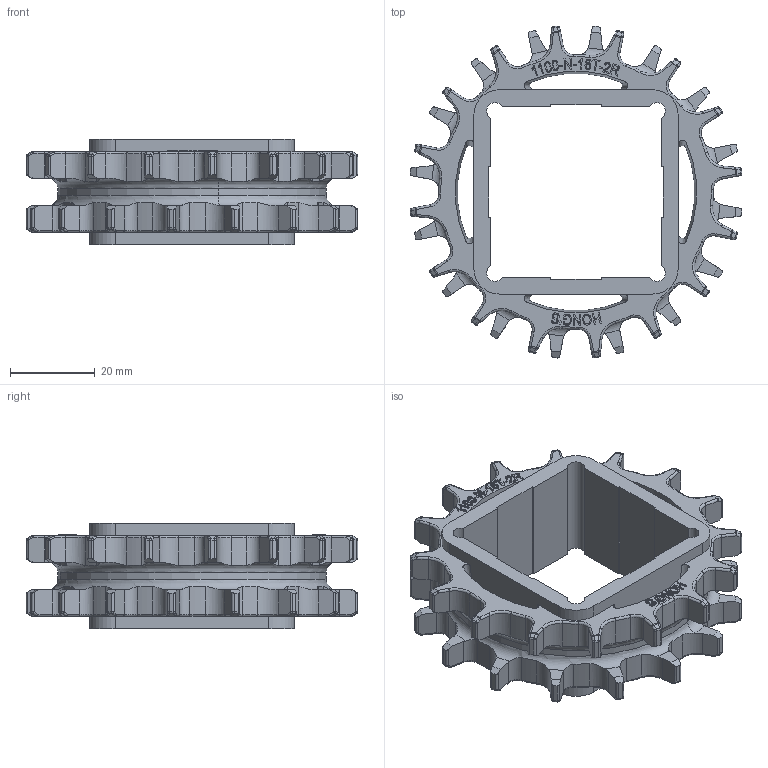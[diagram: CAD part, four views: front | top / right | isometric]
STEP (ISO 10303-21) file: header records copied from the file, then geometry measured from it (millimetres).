
FILE_DESCRIPTION(/* description */ (''),/* implementation_level */ '2;1');
FILE_NAME(/* name */ 'HS-1100-N-16T-2R-S40.stp',/* time_stamp */ '2025-05-26T17:27:47+08:00',/* author */ (''),/* organization */ (''),/* preprocessor_version */ 'ST-DEVELOPER v15',/* originating_system */ 'SIEMENS PLM Software NX 8.5',/* authorisation */ '');
FILE_SCHEMA (('AP203_CONFIGURATION_CONTROLLED_3D_DESIGN_OF_MECHANICAL_PARTS_AND_ASSEMBLIES_MIM_LF { 1 0 10303 403 2 1 2}'));
Length unit declared in the file: millimetre
Products named in the file (1): Admi364067D0v1wv
Bounding box: 78.31 x 78.31 x 24.89 mm (x, y, z)
Volume: 33021.4 mm3; surface area: 18835.9 mm2
Topology: 1 solids, 1 shells, 1063 faces, 2669 edges, 1562 vertices
Faces by surface type: cylinder 366, plane 305, sphere 128, extrusion 108, torus 100, cone 40, bspline 16
Entity records: 34372 total; most frequent: CARTESIAN_POINT 9916, ORIENTED_EDGE 5210, DIRECTION 4908, EDGE_CURVE 2605, AXIS2_PLACEMENT_3D 1848, VERTEX_POINT 1562, VECTOR 1212, LINE 1104
